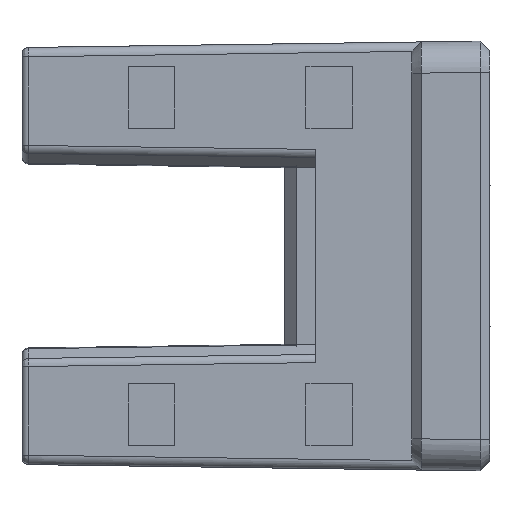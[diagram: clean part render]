
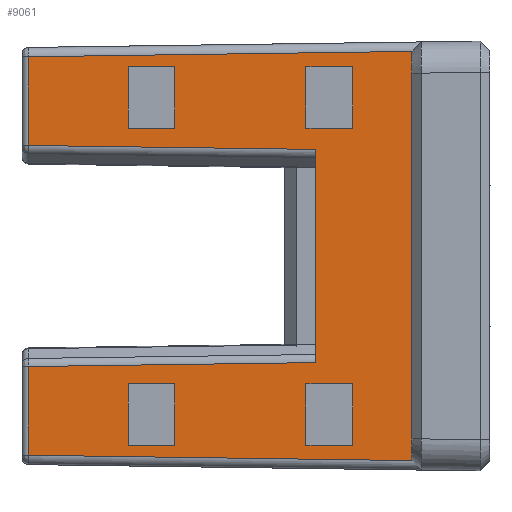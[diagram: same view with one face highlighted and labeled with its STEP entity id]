
A CAD part, left-side view. The second image highlights one B-rep face of the part: STEP entity #9061.
In plain terms, the highlighted planar face has unit normal (-1, 0.014, 0).
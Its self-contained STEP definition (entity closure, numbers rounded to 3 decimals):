
#2179=DIRECTION('',(0.,0.,1.));
#2180=VECTOR('',#2179,1.962);
#2181=CARTESIAN_POINT('',(-3.081,-2.2,4.1));
#2182=LINE('',#2181,#2180);
#2186=DIRECTION('',(0.014,1.,0.));
#2187=VECTOR('',#2186,1.5);
#2188=CARTESIAN_POINT('',(-3.081,-2.2,6.062));
#2189=LINE('',#2188,#2187);
#2193=DIRECTION('',(0.,0.,1.));
#2194=VECTOR('',#2193,1.962);
#2195=CARTESIAN_POINT('',(-3.06,-0.7,4.1));
#2196=LINE('',#2195,#2194);
#2200=DIRECTION('',(0.014,1.,0.));
#2201=VECTOR('',#2200,1.5);
#2202=CARTESIAN_POINT('',(-3.081,-2.2,4.1));
#2203=LINE('',#2202,#2201);
#2207=DIRECTION('',(0.014,1.,0.));
#2208=VECTOR('',#2207,1.5);
#2209=CARTESIAN_POINT('',(-3.081,-2.2,-4.1));
#2210=LINE('',#2209,#2208);
#2214=DIRECTION('',(0.,0.,-1.));
#2215=VECTOR('',#2214,1.962);
#2216=CARTESIAN_POINT('',(-3.06,-0.7,-4.1));
#2217=LINE('',#2216,#2215);
#2221=DIRECTION('',(0.014,1.,0.));
#2222=VECTOR('',#2221,1.5);
#2223=CARTESIAN_POINT('',(-3.081,-2.2,-6.062));
#2224=LINE('',#2223,#2222);
#2228=DIRECTION('',(0.,0.,-1.));
#2229=VECTOR('',#2228,1.962);
#2230=CARTESIAN_POINT('',(-3.081,-2.2,-4.1));
#2231=LINE('',#2230,#2229);
#2235=DIRECTION('',(0.,0.,-1.));
#2236=VECTOR('',#2235,1.964);
#2237=CARTESIAN_POINT('',(-2.98,5.,-4.1));
#2238=LINE('',#2237,#2236);
#2242=DIRECTION('',(0.014,1.,0.));
#2243=VECTOR('',#2242,1.5);
#2244=CARTESIAN_POINT('',(-3.001,3.5,-6.063));
#2245=LINE('',#2244,#2243);
#2249=DIRECTION('',(0.,0.,1.));
#2250=VECTOR('',#2249,1.963);
#2251=CARTESIAN_POINT('',(-3.001,3.5,-6.063));
#2252=LINE('',#2251,#2250);
#2256=DIRECTION('',(0.014,1.,0.));
#2257=VECTOR('',#2256,1.5);
#2258=CARTESIAN_POINT('',(-3.001,3.5,-4.1));
#2259=LINE('',#2258,#2257);
#2263=DIRECTION('',(-0.014,-1.,0.));
#2264=VECTOR('',#2263,1.5);
#2265=CARTESIAN_POINT('',(-2.98,5.,4.1));
#2266=LINE('',#2265,#2264);
#2270=DIRECTION('',(0.,0.,1.));
#2271=VECTOR('',#2270,1.963);
#2272=CARTESIAN_POINT('',(-3.001,3.5,4.1));
#2273=LINE('',#2272,#2271);
#2277=DIRECTION('',(0.014,1.,0.));
#2278=VECTOR('',#2277,1.5);
#2279=CARTESIAN_POINT('',(-3.001,3.5,6.063));
#2280=LINE('',#2279,#2278);
#2284=DIRECTION('',(0.,0.,-1.));
#2285=VECTOR('',#2284,1.964);
#2286=CARTESIAN_POINT('',(-2.98,5.,6.064));
#2287=LINE('',#2286,#2285);
#2291=DIRECTION('',(0.,0.,1.));
#2292=VECTOR('',#2291,2.842);
#2293=CARTESIAN_POINT('',(-2.935,8.203,3.543));
#2294=LINE('',#2293,#2292);
#2298=DIRECTION('',(0.014,1.,-0.014));
#2299=VECTOR('',#2298,12.305);
#2300=CARTESIAN_POINT('',(-3.107,-4.1,6.557));
#2301=LINE('',#2300,#2299);
#2305=DIRECTION('',(0.,0.,1.));
#2306=VECTOR('',#2305,13.115);
#2307=CARTESIAN_POINT('',(-3.107,-4.1,
-6.557));
#2308=LINE('',#2307,#2306);
#2312=DIRECTION('',(-0.014,-1.,-0.014));
#2313=VECTOR('',#2312,12.305);
#2314=CARTESIAN_POINT('',(-2.935,8.203,
-6.385));
#2315=LINE('',#2314,#2313);
#2319=DIRECTION('',(0.,0.,1.));
#2320=VECTOR('',#2319,2.842);
#2321=CARTESIAN_POINT('',(-2.935,8.203,
-6.385));
#2322=LINE('',#2321,#2320);
#2326=DIRECTION('',(0.014,1.,-0.014));
#2327=VECTOR('',#2326,9.205);
#2328=CARTESIAN_POINT('',(-3.064,-1.,-3.417));
#2329=LINE('',#2328,#2327);
#2333=DIRECTION('',(-0.014,-1.,-0.014));
#2334=VECTOR('',#2333,9.205);
#2335=CARTESIAN_POINT('',(-2.935,8.203,3.543));
#2336=LINE('',#2335,#2334);
#2508=DIRECTION('',(0.,0.,-1.));
#2509=VECTOR('',#2508,6.834);
#2510=CARTESIAN_POINT('',(-3.064,-1.,3.417));
#2511=LINE('',#2510,#2509);
#3481=CARTESIAN_POINT('',(-2.935,8.203,
-6.385));
#5178=CARTESIAN_POINT('',(-3.064,-1.,-3.417));
#5337=CARTESIAN_POINT('',(-2.935,8.203,3.543));
#5342=CARTESIAN_POINT('',(-3.064,-1.,3.417));
#6244=CARTESIAN_POINT('',(-3.081,-2.2,4.1));
#6245=CARTESIAN_POINT('',(-3.081,-2.2,6.062));
#6246=VERTEX_POINT('',#6244);
#6247=VERTEX_POINT('',#6245);
#6248=CARTESIAN_POINT('',(-3.06,-0.7,4.1));
#6249=VERTEX_POINT('',#6248);
#6250=CARTESIAN_POINT('',(-3.081,-2.2,-4.1));
#6251=CARTESIAN_POINT('',(-3.06,-0.7,-4.1));
#6252=VERTEX_POINT('',#6250);
#6253=VERTEX_POINT('',#6251);
#6254=CARTESIAN_POINT('',(-3.081,-2.2,-6.062));
#6255=VERTEX_POINT('',#6254);
#6256=CARTESIAN_POINT('',(-2.98,5.,-4.1));
#6257=CARTESIAN_POINT('',(-2.98,5.,-6.064));
#6258=VERTEX_POINT('',#6256);
#6259=VERTEX_POINT('',#6257);
#6260=CARTESIAN_POINT('',(-3.001,3.5,-6.063));
#6261=CARTESIAN_POINT('',(-3.001,3.5,-4.1));
#6262=VERTEX_POINT('',#6260);
#6263=VERTEX_POINT('',#6261);
#6264=CARTESIAN_POINT('',(-2.98,5.,4.1));
#6265=CARTESIAN_POINT('',(-3.001,3.5,4.1));
#6266=VERTEX_POINT('',#6264);
#6267=VERTEX_POINT('',#6265);
#6268=CARTESIAN_POINT('',(-3.001,3.5,6.063));
#6269=VERTEX_POINT('',#6268);
#6270=CARTESIAN_POINT('',(-2.98,5.,6.064));
#6271=VERTEX_POINT('',#6270);
#6350=CARTESIAN_POINT('',(-3.06,-0.7,6.062));
#6351=VERTEX_POINT('',#6350);
#6352=CARTESIAN_POINT('',(-3.06,-0.7,-6.062));
#6353=VERTEX_POINT('',#6352);
#6646=CARTESIAN_POINT('',(-3.107,-4.1,
-6.557));
#6647=VERTEX_POINT('',#6646);
#6648=CARTESIAN_POINT('',(-3.107,-4.1,6.557));
#6649=VERTEX_POINT('',#6648);
#6659=VERTEX_POINT('',#5342);
#6663=VERTEX_POINT('',#5178);
#6683=VERTEX_POINT('',#5337);
#6686=CARTESIAN_POINT('',(-2.935,8.203,6.385));
#6687=VERTEX_POINT('',#6686);
#6731=VERTEX_POINT('',#3481);
#6734=CARTESIAN_POINT('',(-2.935,8.203,
-3.543));
#6735=VERTEX_POINT('',#6734);
#8999=CARTESIAN_POINT('',(-3.05,0.,7.282));
#9000=DIRECTION('',(1.,-0.014,0.));
#9001=DIRECTION('',(0.,0.,-1.));
#9002=AXIS2_PLACEMENT_3D('',#8999,#9000,#9001);
#9003=PLANE('',#9002);
#9005=ORIENTED_EDGE('',*,*,#9004,.T.);
#9007=ORIENTED_EDGE('',*,*,#9006,.F.);
#9009=ORIENTED_EDGE('',*,*,#9008,.F.);
#9011=ORIENTED_EDGE('',*,*,#9010,.F.);
#9013=ORIENTED_EDGE('',*,*,#9012,.T.);
#9015=ORIENTED_EDGE('',*,*,#9014,.F.);
#9017=ORIENTED_EDGE('',*,*,#9016,.F.);
#9019=ORIENTED_EDGE('',*,*,#9018,.F.);
#9020=EDGE_LOOP('',(#9005,#9007,#9009,#9011,#9013,#9015,#9017,#9019));
#9021=FACE_OUTER_BOUND('',#9020,.F.);
#9023=ORIENTED_EDGE('',*,*,#9022,.T.);
#9025=ORIENTED_EDGE('',*,*,#9024,.T.);
#9027=ORIENTED_EDGE('',*,*,#9026,.F.);
#9029=ORIENTED_EDGE('',*,*,#9028,.F.);
#9030=EDGE_LOOP('',(#9023,#9025,#9027,#9029));
#9031=FACE_BOUND('',#9030,.F.);
#9033=ORIENTED_EDGE('',*,*,#9032,.T.);
#9035=ORIENTED_EDGE('',*,*,#9034,.F.);
#9037=ORIENTED_EDGE('',*,*,#9036,.T.);
#9039=ORIENTED_EDGE('',*,*,#9038,.T.);
#9040=EDGE_LOOP('',(#9033,#9035,#9037,#9039));
#9041=FACE_BOUND('',#9040,.F.);
#9043=ORIENTED_EDGE('',*,*,#9042,.T.);
#9045=ORIENTED_EDGE('',*,*,#9044,.T.);
#9047=ORIENTED_EDGE('',*,*,#9046,.T.);
#9049=ORIENTED_EDGE('',*,*,#9048,.T.);
#9050=EDGE_LOOP('',(#9043,#9045,#9047,#9049));
#9051=FACE_BOUND('',#9050,.F.);
#9053=ORIENTED_EDGE('',*,*,#9052,.T.);
#9055=ORIENTED_EDGE('',*,*,#9054,.T.);
#9057=ORIENTED_EDGE('',*,*,#9056,.F.);
#9058=ORIENTED_EDGE('',*,*,#8949,.F.);
#9059=EDGE_LOOP('',(#9053,#9055,#9057,#9058));
#9060=FACE_BOUND('',#9059,.F.);
#9061=ADVANCED_FACE('',(#9021,#9031,#9041,#9051,#9060),#9003,.F.);
#8949=EDGE_CURVE('',#6246,#6249,#2203,.T.);
#9004=EDGE_CURVE('',#6683,#6687,#2294,.T.);
#9006=EDGE_CURVE('',#6649,#6687,#2301,.T.);
#9008=EDGE_CURVE('',#6647,#6649,#2308,.T.);
#9010=EDGE_CURVE('',#6731,#6647,#2315,.T.);
#9012=EDGE_CURVE('',#6731,#6735,#2322,.T.);
#9014=EDGE_CURVE('',#6663,#6735,#2329,.T.);
#9016=EDGE_CURVE('',#6659,#6663,#2511,.T.);
#9018=EDGE_CURVE('',#6683,#6659,#2336,.T.);
#9022=EDGE_CURVE('',#6252,#6253,#2210,.T.);
#9024=EDGE_CURVE('',#6253,#6353,#2217,.T.);
#9026=EDGE_CURVE('',#6255,#6353,#2224,.T.);
#9028=EDGE_CURVE('',#6252,#6255,#2231,.T.);
#9032=EDGE_CURVE('',#6258,#6259,#2238,.T.);
#9034=EDGE_CURVE('',#6262,#6259,#2245,.T.);
#9036=EDGE_CURVE('',#6262,#6263,#2252,.T.);
#9038=EDGE_CURVE('',#6263,#6258,#2259,.T.);
#9042=EDGE_CURVE('',#6266,#6267,#2266,.T.);
#9044=EDGE_CURVE('',#6267,#6269,#2273,.T.);
#9046=EDGE_CURVE('',#6269,#6271,#2280,.T.);
#9048=EDGE_CURVE('',#6271,#6266,#2287,.T.);
#9052=EDGE_CURVE('',#6246,#6247,#2182,.T.);
#9054=EDGE_CURVE('',#6247,#6351,#2189,.T.);
#9056=EDGE_CURVE('',#6249,#6351,#2196,.T.);
